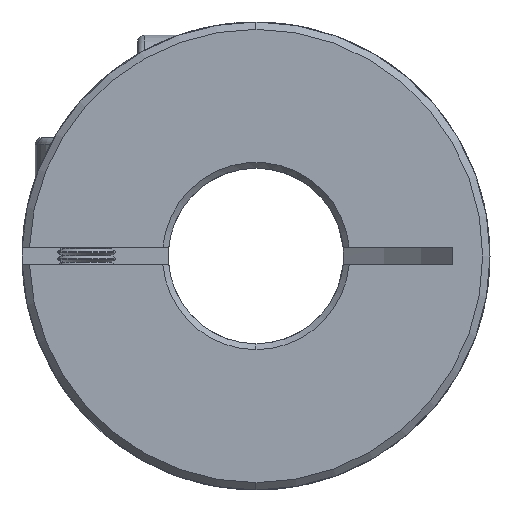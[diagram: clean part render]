
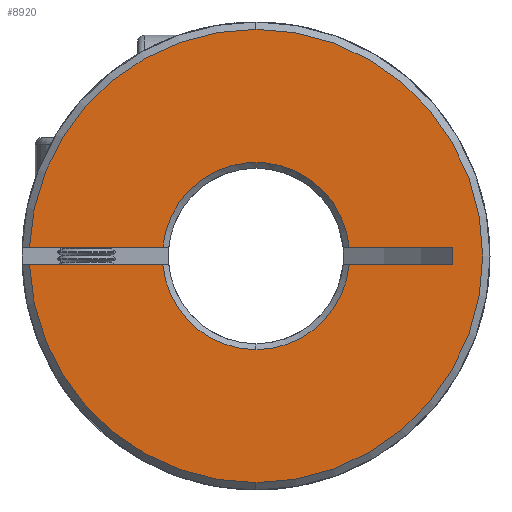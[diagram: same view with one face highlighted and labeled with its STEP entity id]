
A CAD part, front view. The second image highlights one B-rep face of the part: STEP entity #8920.
In plain terms, the highlighted planar face has unit normal (0, -1, 0).
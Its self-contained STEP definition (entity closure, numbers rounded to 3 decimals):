
#21 = LINE ( 'NONE', #9067, #711 ) ;
#47 = DIRECTION ( 'NONE',  ( 1., 0., 0. ) ) ;
#136 = ORIENTED_EDGE ( 'NONE', *, *, #10813, .T. ) ;
#173 = DIRECTION ( 'NONE',  ( 1., 0., 0. ) ) ;
#191 = AXIS2_PLACEMENT_3D ( 'NONE', #3729, #2009, #10606 ) ;
#482 = DIRECTION ( 'NONE',  ( 0., 0., 1. ) ) ;
#516 = CARTESIAN_POINT ( 'NONE',  ( 0., 0., 0. ) ) ;
#588 = ORIENTED_EDGE ( 'NONE', *, *, #2636, .T. ) ;
#711 = VECTOR ( 'NONE', #3909, 1000. ) ;
#758 = CARTESIAN_POINT ( 'NONE',  ( -6.372, 0., 0.6 ) ) ;
#793 = VERTEX_POINT ( 'NONE', #758 ) ;
#1074 = FACE_OUTER_BOUND ( 'NONE', #3632, .T. ) ;
#1255 = DIRECTION ( 'NONE',  ( 1., 0., 0. ) ) ;
#1296 = DIRECTION ( 'NONE',  ( 0., 0., 1. ) ) ;
#1333 = LINE ( 'NONE', #5763, #10225 ) ;
#1379 = CARTESIAN_POINT ( 'NONE',  ( 6.372, 0., -0.6 ) ) ;
#1606 = AXIS2_PLACEMENT_3D ( 'NONE', #1697, #4236, #9480 ) ;
#1697 = CARTESIAN_POINT ( 'NONE',  ( -50., 0., -18.413 ) ) ;
#1727 = VERTEX_POINT ( 'NONE', #9897 ) ;
#2009 = DIRECTION ( 'NONE',  ( 0., 1., 0. ) ) ;
#2087 = CARTESIAN_POINT ( 'NONE',  ( 0., 0., -6.4 ) ) ;
#2159 = CARTESIAN_POINT ( 'NONE',  ( -50., 0., 0.6 ) ) ;
#2225 = DIRECTION ( 'NONE',  ( 0., 1., 0. ) ) ;
#2353 = DIRECTION ( 'NONE',  ( 0., 0., -1. ) ) ;
#2392 = VERTEX_POINT ( 'NONE', #5923 ) ;
#2437 = VERTEX_POINT ( 'NONE', #4182 ) ;
#2636 = EDGE_CURVE ( 'NONE', #1727, #8226, #10475, .T. ) ;
#2976 = AXIS2_PLACEMENT_3D ( 'NONE', #516, #5596, #1296 ) ;
#3071 = CARTESIAN_POINT ( 'NONE',  ( 13.436, 0., -0.6 ) ) ;
#3103 = CARTESIAN_POINT ( 'NONE',  ( 0., 0., 0. ) ) ;
#3457 = PLANE ( 'NONE',  #1606 ) ;
#3586 = VERTEX_POINT ( 'NONE', #1379 ) ;
#3632 = EDGE_LOOP ( 'NONE', ( #5516, #588, #9666, #8279, #136, #4763, #6601, #9636, #7499, #8426, #4216 ) ) ;
#3646 = VERTEX_POINT ( 'NONE', #4720 ) ;
#3652 = AXIS2_PLACEMENT_3D ( 'NONE', #5627, #4849, #482 ) ;
#3729 = CARTESIAN_POINT ( 'NONE',  ( 0., 0., 0. ) ) ;
#3756 = AXIS2_PLACEMENT_3D ( 'NONE', #7349, #2225, #9016 ) ;
#3883 = AXIS2_PLACEMENT_3D ( 'NONE', #3103, #5676, #5742 ) ;
#3909 = DIRECTION ( 'NONE',  ( 1., 0., 0. ) ) ;
#3962 = AXIS2_PLACEMENT_3D ( 'NONE', #7086, #4463, #8820 ) ;
#4006 = EDGE_CURVE ( 'NONE', #5158, #2392, #8005, .T. ) ;
#4069 = VERTEX_POINT ( 'NONE', #8292 ) ;
#4182 = CARTESIAN_POINT ( 'NONE',  ( 13.436, 0., -0.6 ) ) ;
#4216 = ORIENTED_EDGE ( 'NONE', *, *, #4006, .T. ) ;
#4236 = DIRECTION ( 'NONE',  ( 0., 1., 0. ) ) ;
#4463 = DIRECTION ( 'NONE',  ( 0., 1., 0. ) ) ;
#4534 = EDGE_CURVE ( 'NONE', #4069, #3646, #6763, .T. ) ;
#4636 = VERTEX_POINT ( 'NONE', #10473 ) ;
#4720 = CARTESIAN_POINT ( 'NONE',  ( 13.436, 0., 0.6 ) ) ;
#4763 = ORIENTED_EDGE ( 'NONE', *, *, #8139, .T. ) ;
#4849 = DIRECTION ( 'NONE',  ( 0., -1., 0. ) ) ;
#4868 = EDGE_CURVE ( 'NONE', #3646, #2437, #9312, .T. ) ;
#5158 = VERTEX_POINT ( 'NONE', #2087 ) ;
#5234 = CIRCLE ( 'NONE', #3756, 6.4 ) ;
#5277 = CIRCLE ( 'NONE', #3652, 15.5 ) ;
#5516 = ORIENTED_EDGE ( 'NONE', *, *, #8890, .F. ) ;
#5596 = DIRECTION ( 'NONE',  ( 0., -1., 0. ) ) ;
#5627 = CARTESIAN_POINT ( 'NONE',  ( 0., 0., 0. ) ) ;
#5636 = CARTESIAN_POINT ( 'NONE',  ( 0., 0., -15.5 ) ) ;
#5676 = DIRECTION ( 'NONE',  ( 0., -1., 0. ) ) ;
#5716 = VECTOR ( 'NONE', #1255, 1000. ) ;
#5742 = DIRECTION ( 'NONE',  ( 0., 0., 1. ) ) ;
#5763 = CARTESIAN_POINT ( 'NONE',  ( -50., 0., -0.6 ) ) ;
#5923 = CARTESIAN_POINT ( 'NONE',  ( -6.372, 0., -0.6 ) ) ;
#6393 = EDGE_CURVE ( 'NONE', #8965, #4636, #5277, .T. ) ;
#6396 = EDGE_CURVE ( 'NONE', #3586, #2437, #21, .T. ) ;
#6569 = CIRCLE ( 'NONE', #3883, 15.5 ) ;
#6601 = ORIENTED_EDGE ( 'NONE', *, *, #4534, .T. ) ;
#6763 = LINE ( 'NONE', #7033, #7175 ) ;
#7033 = CARTESIAN_POINT ( 'NONE',  ( -50., 0., 0.6 ) ) ;
#7086 = CARTESIAN_POINT ( 'NONE',  ( 0., 0., 0. ) ) ;
#7175 = VECTOR ( 'NONE', #173, 1000. ) ;
#7349 = CARTESIAN_POINT ( 'NONE',  ( 0., 0., 0. ) ) ;
#7499 = ORIENTED_EDGE ( 'NONE', *, *, #6396, .F. ) ;
#7521 = EDGE_CURVE ( 'NONE', #8226, #8965, #6569, .T. ) ;
#8005 = CIRCLE ( 'NONE', #191, 6.4 ) ;
#8139 = EDGE_CURVE ( 'NONE', #793, #4069, #10078, .T. ) ;
#8226 = VERTEX_POINT ( 'NONE', #5636 ) ;
#8279 = ORIENTED_EDGE ( 'NONE', *, *, #6393, .T. ) ;
#8292 = CARTESIAN_POINT ( 'NONE',  ( 6.372, 0., 0.6 ) ) ;
#8391 = LINE ( 'NONE', #2159, #5716 ) ;
#8426 = ORIENTED_EDGE ( 'NONE', *, *, #9245, .T. ) ;
#8537 = CARTESIAN_POINT ( 'NONE',  ( 0., 0., 15.5 ) ) ;
#8820 = DIRECTION ( 'NONE',  ( 0., 0., 1. ) ) ;
#8890 = EDGE_CURVE ( 'NONE', #1727, #2392, #1333, .T. ) ;
#8920 = ADVANCED_FACE ( 'NONE', ( #1074 ), #3457, .F. ) ;
#8965 = VERTEX_POINT ( 'NONE', #8537 ) ;
#9016 = DIRECTION ( 'NONE',  ( 0., 0., 1. ) ) ;
#9051 = VECTOR ( 'NONE', #2353, 1000. ) ;
#9067 = CARTESIAN_POINT ( 'NONE',  ( -50., 0., -0.6 ) ) ;
#9245 = EDGE_CURVE ( 'NONE', #3586, #5158, #5234, .T. ) ;
#9312 = LINE ( 'NONE', #3071, #9051 ) ;
#9480 = DIRECTION ( 'NONE',  ( 0., 0., 1. ) ) ;
#9636 = ORIENTED_EDGE ( 'NONE', *, *, #4868, .T. ) ;
#9666 = ORIENTED_EDGE ( 'NONE', *, *, #7521, .T. ) ;
#9897 = CARTESIAN_POINT ( 'NONE',  ( -15.488, 0., -0.6 ) ) ;
#10078 = CIRCLE ( 'NONE', #3962, 6.4 ) ;
#10225 = VECTOR ( 'NONE', #47, 1000. ) ;
#10473 = CARTESIAN_POINT ( 'NONE',  ( -15.488, 0., 0.6 ) ) ;
#10475 = CIRCLE ( 'NONE', #2976, 15.5 ) ;
#10606 = DIRECTION ( 'NONE',  ( 0., 0., 1. ) ) ;
#10813 = EDGE_CURVE ( 'NONE', #4636, #793, #8391, .T. ) ;
